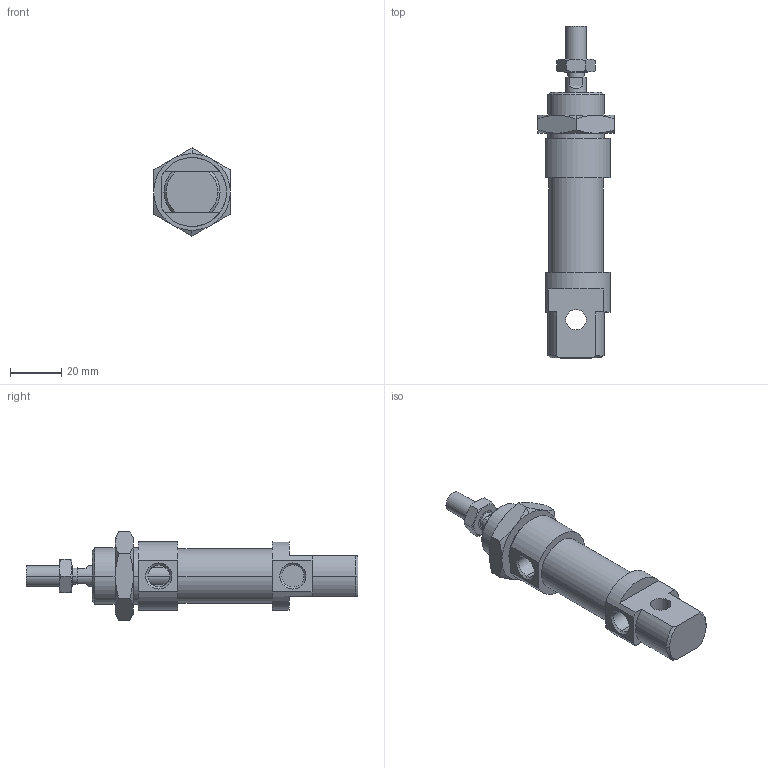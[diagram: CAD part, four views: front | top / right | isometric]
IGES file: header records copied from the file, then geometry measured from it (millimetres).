
Global section: file name: No Iges File Name specified; native system: AutoDesk Inventor R6.0; preprocessor: AutoDesk Inventor Iges Exporter R6.0; author: No Author specified; organization: No Organization specified; date: 20030407.191248; units: millimetre
Bounding box: 30 x 130 x 34.64 mm (x, y, z)
Volume: 44356.7 mm3; surface area: 14531.4 mm2
Topology: 4 solids, 4 shells, 124 faces, 281 edges, 170 vertices
Faces by surface type: plane 41, cone 38, bspline 21, cylinder 18, revolution 6
